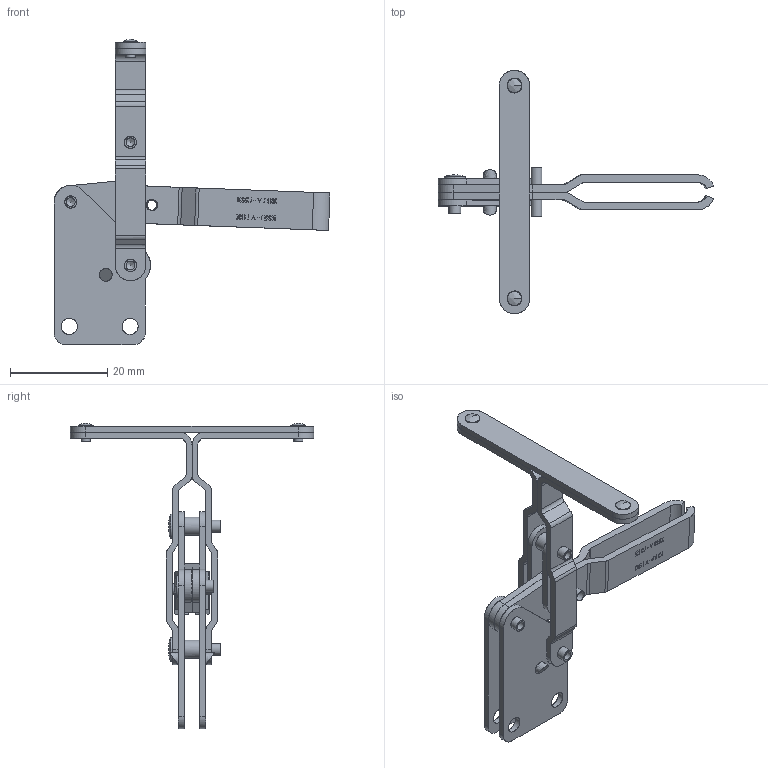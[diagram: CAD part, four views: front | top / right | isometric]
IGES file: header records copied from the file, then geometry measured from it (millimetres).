
Start section:  Autodesk DirectConnect version 7.0.27.0 ---- IGES version 5.3
Global section: file name: C:\Users\Nick\Desktop\TS-600\3D\TS-600.igs; native system: Autodesk DirectConnect 7.0.27.0; preprocessor: 7.0.27.0; author: Nick; organization: Unknown; date: 20150806.152218; units: centimetre
Bounding box: 56.68 x 50.01 x 62.75 mm (x, y, z)
Surface area: 17403.4 mm2 (no closed solid volume)
Topology: 0 solids, 0 shells, 1886 faces, 10980 edges, 10848 vertices
Faces by surface type: bspline 1886
